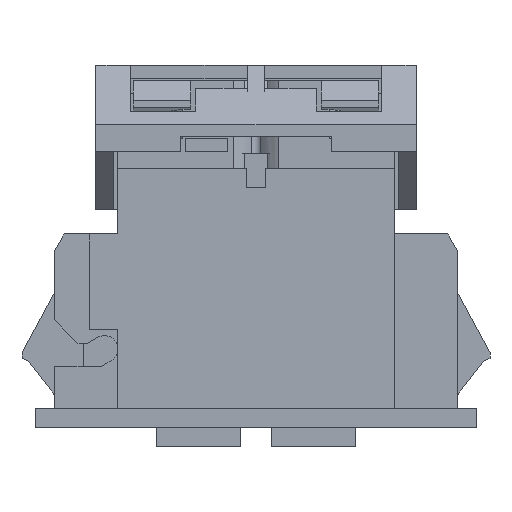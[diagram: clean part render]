
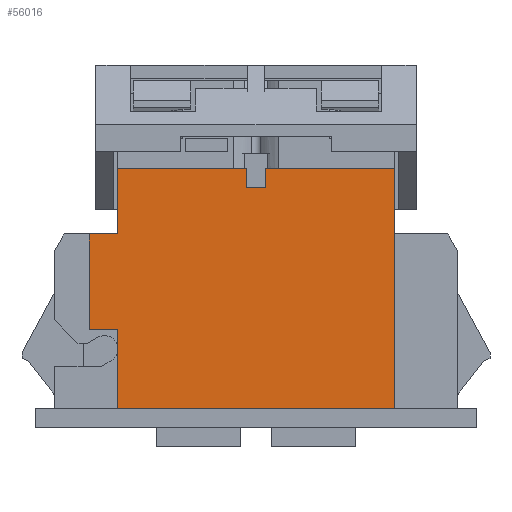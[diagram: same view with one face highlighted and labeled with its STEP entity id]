
A CAD part, front view. The second image highlights one B-rep face of the part: STEP entity #56016.
In plain terms, the highlighted planar face has unit normal (0, -1, 0).
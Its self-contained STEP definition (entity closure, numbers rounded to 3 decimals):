
#47701=CARTESIAN_POINT(' ',(7.2,-9.9,-3.5));
#47702=VERTEX_POINT(' ',#47701);
#47716=CARTESIAN_POINT(' ',(-7.2,-9.9,-3.5));
#47721=DIRECTION(' ',(1.,0.,0.));
#47726=VECTOR(' ',#47721,1.);
#47731=LINE('',#47716,#47726);
#47736=CARTESIAN_POINT(' ',(-7.2,-9.9,-3.5));
#47737=VERTEX_POINT(' ',#47736);
#47741=EDGE_CURVE(' ',#47737,#47702,#47731,.T.);
#53451=CARTESIAN_POINT(' ',(-0.5,-9.9,9.));
#53452=VERTEX_POINT(' ',#53451);
#53466=CARTESIAN_POINT(' ',(-0.5,-9.9,9.));
#53471=DIRECTION(' ',(0.,0.,-1.));
#53476=VECTOR(' ',#53471,1.);
#53481=LINE('',#53466,#53476);
#53486=CARTESIAN_POINT(' ',(-0.5,-9.9,8.));
#53487=VERTEX_POINT(' ',#53486);
#53491=EDGE_CURVE(' ',#53452,#53487,#53481,.T.);
#53591=CARTESIAN_POINT(' ',(0.5,-9.9,8.));
#53596=DIRECTION(' ',(-1.,0.,0.));
#53601=VECTOR(' ',#53596,1.);
#53606=LINE('',#53591,#53601);
#53611=CARTESIAN_POINT(' ',(0.5,-9.9,8.));
#53612=VERTEX_POINT(' ',#53611);
#53616=EDGE_CURVE(' ',#53612,#53487,#53606,.T.);
#53721=CARTESIAN_POINT(' ',(0.5,-9.9,9.));
#53722=VERTEX_POINT(' ',#53721);
#53811=CARTESIAN_POINT(' ',(0.5,-9.9,8.));
#53816=DIRECTION(' ',(0.,0.,1.));
#53821=VECTOR(' ',#53816,1.);
#53826=LINE('',#53811,#53821);
#53831=EDGE_CURVE(' ',#53612,#53722,#53826,.T.);
#55391=CARTESIAN_POINT(' ',(7.2,-9.9,9.));
#55392=VERTEX_POINT(' ',#55391);
#55406=CARTESIAN_POINT(' ',(7.2,-9.9,9.));
#55411=DIRECTION(' ',(0.,0.,-1.));
#55416=VECTOR(' ',#55411,1.);
#55421=LINE('',#55406,#55416);
#55426=EDGE_CURVE(' ',#55392,#47702,#55421,.T.);
#55721=DIRECTION(' ',(-0.,-1.,0.));
#55726=CARTESIAN_POINT(' ',(-8.7,-9.9,-3.5));
#55731=DIRECTION(' ',(1.,0.,0.));
#55736=AXIS2_PLACEMENT_3D(' ',#55726,#55721,#55731);
#55741=PLANE('',#55736);
#55746=CARTESIAN_POINT(' ',(-7.2,-9.9,9.));
#55751=DIRECTION(' ',(0.,0.,-1.));
#55756=VECTOR(' ',#55751,1.);
#55761=LINE('',#55746,#55756);
#55766=CARTESIAN_POINT(' ',(-7.2,-9.9,9.));
#55767=VERTEX_POINT(' ',#55766);
#55771=CARTESIAN_POINT(' ',(-7.2,-9.9,5.6));
#55772=VERTEX_POINT(' ',#55771);
#55776=EDGE_CURVE(' ',#55767,#55772,#55761,.T.);
#55781=ORIENTED_EDGE(' ',*,*,#55776,.T.);
#55786=CARTESIAN_POINT(' ',(-8.7,-9.9,5.6));
#55791=DIRECTION(' ',(1.,0.,0.));
#55796=VECTOR(' ',#55791,1.);
#55801=LINE('',#55786,#55796);
#55806=CARTESIAN_POINT(' ',(-8.7,-9.9,5.6));
#55807=VERTEX_POINT(' ',#55806);
#55811=EDGE_CURVE(' ',#55807,#55772,#55801,.T.);
#55816=ORIENTED_EDGE(' ',*,*,#55811,.F.);
#55821=CARTESIAN_POINT(' ',(-8.7,-9.9,0.6));
#55826=DIRECTION(' ',(0.,0.,1.));
#55831=VECTOR(' ',#55826,1.);
#55836=LINE('',#55821,#55831);
#55841=CARTESIAN_POINT(' ',(-8.7,-9.9,0.6));
#55842=VERTEX_POINT(' ',#55841);
#55846=EDGE_CURVE(' ',#55842,#55807,#55836,.T.);
#55851=ORIENTED_EDGE(' ',*,*,#55846,.F.);
#55856=CARTESIAN_POINT(' ',(-8.7,-9.9,0.6));
#55861=DIRECTION(' ',(1.,0.,0.));
#55866=VECTOR(' ',#55861,1.);
#55871=LINE('',#55856,#55866);
#55876=CARTESIAN_POINT(' ',(-7.2,-9.9,0.6));
#55877=VERTEX_POINT(' ',#55876);
#55881=EDGE_CURVE(' ',#55842,#55877,#55871,.T.);
#55886=ORIENTED_EDGE(' ',*,*,#55881,.T.);
#55891=CARTESIAN_POINT(' ',(-7.2,-9.9,0.6));
#55896=DIRECTION(' ',(0.,0.,-1.));
#55901=VECTOR(' ',#55896,1.);
#55906=LINE('',#55891,#55901);
#55911=EDGE_CURVE(' ',#55877,#47737,#55906,.T.);
#55916=ORIENTED_EDGE(' ',*,*,#55911,.T.);
#55921=ORIENTED_EDGE(' ',*,*,#47741,.T.);
#55926=ORIENTED_EDGE(' ',*,*,#55426,.F.);
#55931=CARTESIAN_POINT(' ',(7.2,-9.9,9.));
#55936=DIRECTION(' ',(-1.,0.,0.));
#55941=VECTOR(' ',#55936,1.);
#55946=LINE('',#55931,#55941);
#55951=EDGE_CURVE(' ',#55392,#53722,#55946,.T.);
#55956=ORIENTED_EDGE(' ',*,*,#55951,.T.);
#55961=ORIENTED_EDGE(' ',*,*,#53831,.F.);
#55966=ORIENTED_EDGE(' ',*,*,#53616,.T.);
#55971=ORIENTED_EDGE(' ',*,*,#53491,.F.);
#55976=CARTESIAN_POINT(' ',(-0.5,-9.9,9.));
#55981=DIRECTION(' ',(-1.,0.,0.));
#55986=VECTOR(' ',#55981,1.);
#55991=LINE('',#55976,#55986);
#55996=EDGE_CURVE(' ',#53452,#55767,#55991,.T.);
#56001=ORIENTED_EDGE(' ',*,*,#55996,.T.);
#56006=EDGE_LOOP(' ',(#55781,#55816,#55851,#55886,#55916,#55921,#55926,#55956,#55961,#55966,#55971,#56001));
#56011=FACE_OUTER_BOUND(' ',#56006,.T.);
#56016=ADVANCED_FACE('',(#56011),#55741,.T.);
